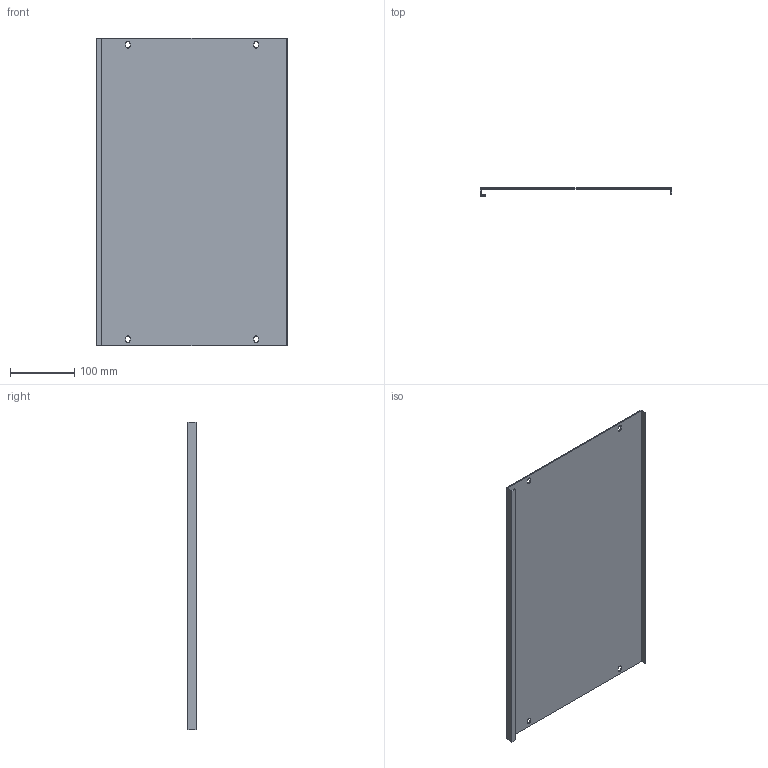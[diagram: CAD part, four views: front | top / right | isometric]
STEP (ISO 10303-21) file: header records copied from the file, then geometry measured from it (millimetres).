
FILE_DESCRIPTION (( 'STEP AP214' ), '1' );
FILE_NAME ('FO-00-PVS-030-060 Ïëàñòðîí ãëóõîé âíóòðåííèé 300õ600.STEP', '2025-08-26T10:12:23', ( '' ), ( '' ), 'SwSTEP 2.0', 'SolidWorks 2023', '' );
FILE_SCHEMA (( 'AUTOMOTIVE_DESIGN' ));
Length unit declared in the file: millimetre
Products named in the file (1): FO-00-PVS-030-060 Пластрон глухой внутренний 300х600
Bounding box: 298 x 12.5 x 479 mm (x, y, z)
Volume: 232437.1 mm3; surface area: 312493.1 mm2
Topology: 1 solids, 1 shells, 42 faces, 120 edges, 80 vertices
Faces by surface type: plane 30, cylinder 12
Entity records: 1407 total; most frequent: CARTESIAN_POINT 243, ORIENTED_EDGE 240, DIRECTION 230, EDGE_CURVE 120, LINE 96, VECTOR 96, VERTEX_POINT 80, AXIS2_PLACEMENT_3D 67
